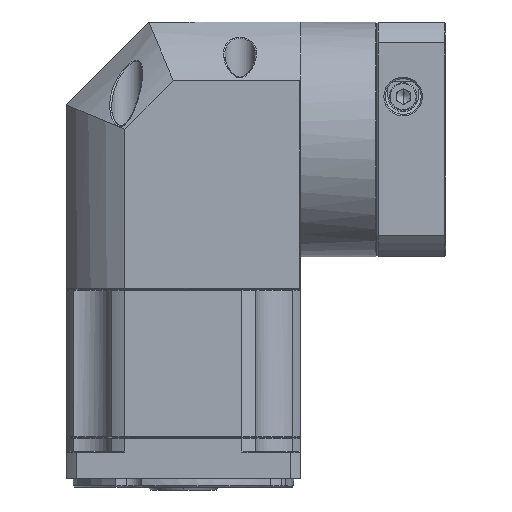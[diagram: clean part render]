
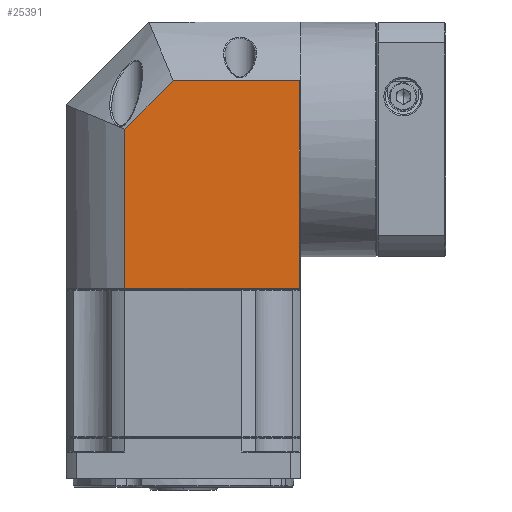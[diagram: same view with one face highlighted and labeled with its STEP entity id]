
A CAD part, front view. The second image highlights one B-rep face of the part: STEP entity #25391.
In plain terms, the highlighted planar face has unit normal (0, -1, 0).
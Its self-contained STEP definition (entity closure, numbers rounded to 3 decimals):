
#3551 = DIRECTION ( 'NONE',  ( 1., 0., 0. ) ) ;
#8456 = DIRECTION ( 'NONE',  ( 0., 0., -1. ) ) ;
#8934 = AXIS2_PLACEMENT_3D ( 'NONE', #23117, #114495, #36317 ) ;
#11628 = LINE ( 'NONE', #37472, #81144 ) ;
#23117 = CARTESIAN_POINT ( 'NONE',  ( 68.097, 111.923, 51.112 ) ) ;
#24607 = LINE ( 'NONE', #75671, #55230 ) ;
#25391 = ADVANCED_FACE ( 'NONE', ( #79431 ), #101386, .F. ) ;
#29970 = VECTOR ( 'NONE', #8456, 1000. ) ;
#34277 = EDGE_LOOP ( 'NONE', ( #96726, #42434, #105788, #68193, #154223 ) ) ;
#36317 = DIRECTION ( 'NONE',  ( -1., 0., 0. ) ) ;
#37472 = CARTESIAN_POINT ( 'NONE',  ( 4.384, 111.923, 51.112 ) ) ;
#39256 = DIRECTION ( 'NONE',  ( 1., 0., 0. ) ) ;
#42434 = ORIENTED_EDGE ( 'NONE', *, *, #88454, .F. ) ;
#45595 = EDGE_CURVE ( 'NONE', #126873, #105049, #100480, .T. ) ;
#50443 = CARTESIAN_POINT ( 'NONE',  ( 67.597, 111.923, 29.825 ) ) ;
#52418 = CARTESIAN_POINT ( 'NONE',  ( 68.097, 111.923, 29.825 ) ) ;
#53397 = VECTOR ( 'NONE', #3551, 1000. ) ;
#54511 = CARTESIAN_POINT ( 'NONE',  ( 4.384, 111.923, 12.294 ) ) ;
#55230 = VECTOR ( 'NONE', #153776, 1000. ) ;
#55406 = CARTESIAN_POINT ( 'NONE',  ( 68.097, 111.923, -45.388 ) ) ;
#63196 = DIRECTION ( 'NONE',  ( 0., 0., 1. ) ) ;
#63735 = CARTESIAN_POINT ( 'NONE',  ( 21.915, 111.923, 29.825 ) ) ;
#68193 = ORIENTED_EDGE ( 'NONE', *, *, #105711, .F. ) ;
#69523 = VECTOR ( 'NONE', #39256, 1000. ) ;
#73655 = LINE ( 'NONE', #52418, #69523 ) ;
#75671 = CARTESIAN_POINT ( 'NONE',  ( 4.384, 111.923, 12.294 ) ) ;
#79431 = FACE_OUTER_BOUND ( 'NONE', #34277, .T. ) ;
#79825 = VERTEX_POINT ( 'NONE', #54511 ) ;
#79867 = CARTESIAN_POINT ( 'NONE',  ( 67.597, 111.923, -45.388 ) ) ;
#80526 = EDGE_CURVE ( 'NONE', #107833, #97723, #73655, .T. ) ;
#81144 = VECTOR ( 'NONE', #63196, 1000. ) ;
#88454 = EDGE_CURVE ( 'NONE', #97723, #105049, #164873, .T. ) ;
#92545 = CARTESIAN_POINT ( 'NONE',  ( 4.384, 111.923, -45.388 ) ) ;
#94130 = EDGE_CURVE ( 'NONE', #126873, #79825, #11628, .T. ) ;
#96726 = ORIENTED_EDGE ( 'NONE', *, *, #45595, .T. ) ;
#97723 = VERTEX_POINT ( 'NONE', #50443 ) ;
#100480 = LINE ( 'NONE', #55406, #53397 ) ;
#101386 = PLANE ( 'NONE',  #8934 ) ;
#105049 = VERTEX_POINT ( 'NONE', #79867 ) ;
#105711 = EDGE_CURVE ( 'NONE', #79825, #107833, #24607, .T. ) ;
#105788 = ORIENTED_EDGE ( 'NONE', *, *, #80526, .F. ) ;
#107833 = VERTEX_POINT ( 'NONE', #63735 ) ;
#114495 = DIRECTION ( 'NONE',  ( 0., 1., 0. ) ) ;
#126873 = VERTEX_POINT ( 'NONE', #92545 ) ;
#153776 = DIRECTION ( 'NONE',  ( 0.707, 0., 0.707 ) ) ;
#154223 = ORIENTED_EDGE ( 'NONE', *, *, #94130, .F. ) ;
#164873 = LINE ( 'NONE', #164923, #29970 ) ;
#164923 = CARTESIAN_POINT ( 'NONE',  ( 67.597, 111.923, 51.112 ) ) ;
